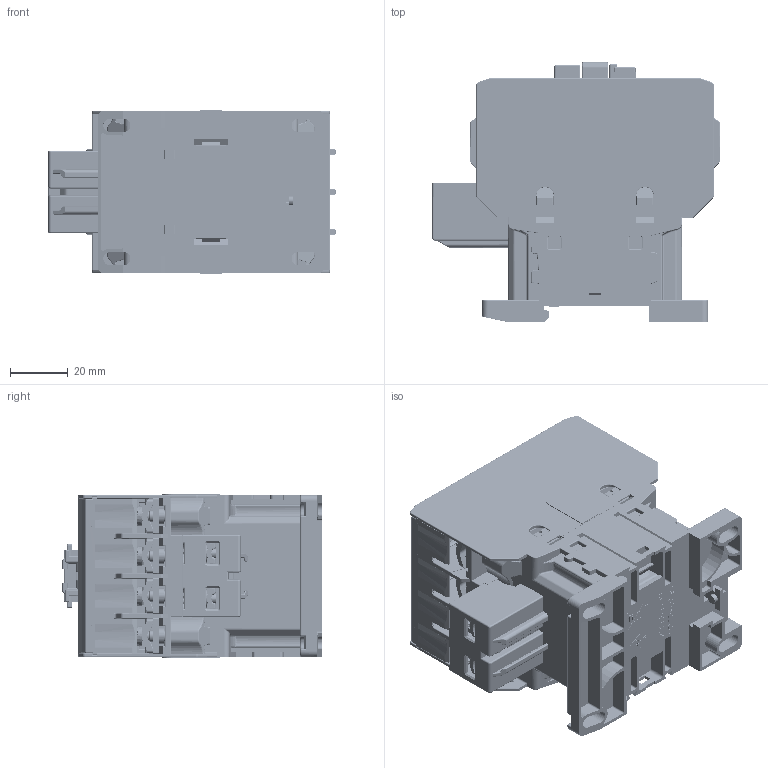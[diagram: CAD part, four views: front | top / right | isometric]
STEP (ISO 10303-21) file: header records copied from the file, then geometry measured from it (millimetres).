
FILE_DESCRIPTION((''),'2;1');
FILE_NAME('2ZTJ-401-037-1_6_SW0002','2024-07-16T16:09:01',('chenmqing'),(''),'CREO PARAMETRIC BY PTC INC, 2020044','CREO PARAMETRIC BY PTC INC, 2020044','');
FILE_SCHEMA(('CONFIG_CONTROL_DESIGN','SHAPE_APPEARANCE_LAYERS_GROUPS'));
Products named in the file (1): 2ZTJ-401-037-1_6_SW0002
Bounding box: 99.3 x 89.6 x 56.6 mm (x, y, z)
Volume: 213732.3 mm3; surface area: 129791.8 mm2
Topology: 1 solids, 2 shells, 10868 faces, 29661 edges, 18739 vertices
Faces by surface type: plane 6822, cylinder 2982, torus 437, sphere 306, bspline 225, cone 96
Entity records: 451983 total; most frequent: CARTESIAN_POINT 90010, ORIENTED_EDGE 59202, DIRECTION 53869, EDGE_CURVE 29601, VECTOR 22015, LINE 22015, VERTEX_POINT 18737, AXIS2_PLACEMENT_3D 15927
